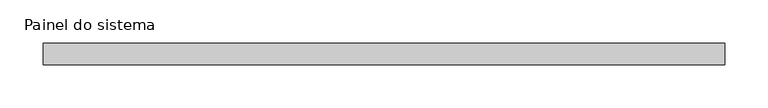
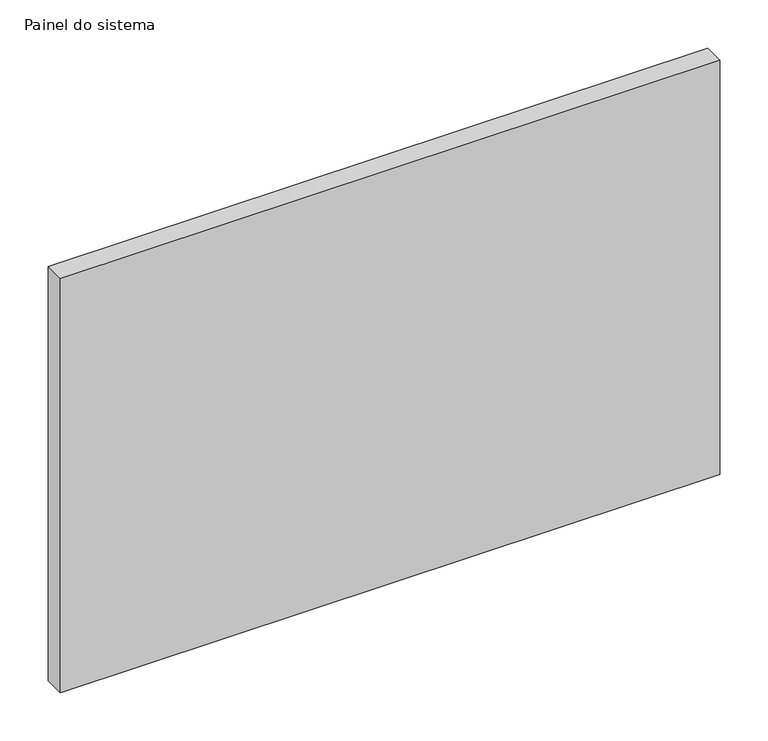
"""IFC4 building model written with IfcOpenShell, lengths in millimetres: plate geometry, Painel do sistema : Envidraçado."""

from ifc_helpers import new_model, si_unit, origin, origin_with_axes, place, context, project, spatial, polyline, outline, extrude, source, transform, mapped, element, save


def painel_do_sistema_2b047113(model_context):
    return source(origin(), model_context, "Body", "SweptSolid", [
        extrude(outline(polyline([(395.0, 24.5), (-395.0, 24.5), (-395.0, 49.5), (395.0, 49.5), (395.0, 24.5)])), origin_with_axes(), (0.0, 0.0, 1.0), 525.0),
    ])


if __name__ == "__main__":
    model = new_model("IFC4")
    model_context = context("Model", 3, world=origin())
    ifc_project = project(units=[si_unit("LENGTHUNIT", "METRE", prefix="MILLI")], contexts=[model_context])
    site = spatial("IfcSite", under=ifc_project)
    building = spatial("IfcBuilding", under=site)
    placement = place(None, origin())
    painel_do_sistema_shape = painel_do_sistema_2b047113(model_context)
    element("IfcPlate", 1, ObjectType="Painel do sistema : Envidraçado", at=placement, inside=building, context=model_context, shape_type="MappedRepresentation", body=[
        mapped(painel_do_sistema_shape, transform((0.0, 0.0, 0.0), x_axis=(1.0, 0.0, 0.0), y_axis=(0.0, 1.0, 0.0), z_axis=(0.0, 0.0, 1.0))),
    ])
    save(model, "model.ifc")
